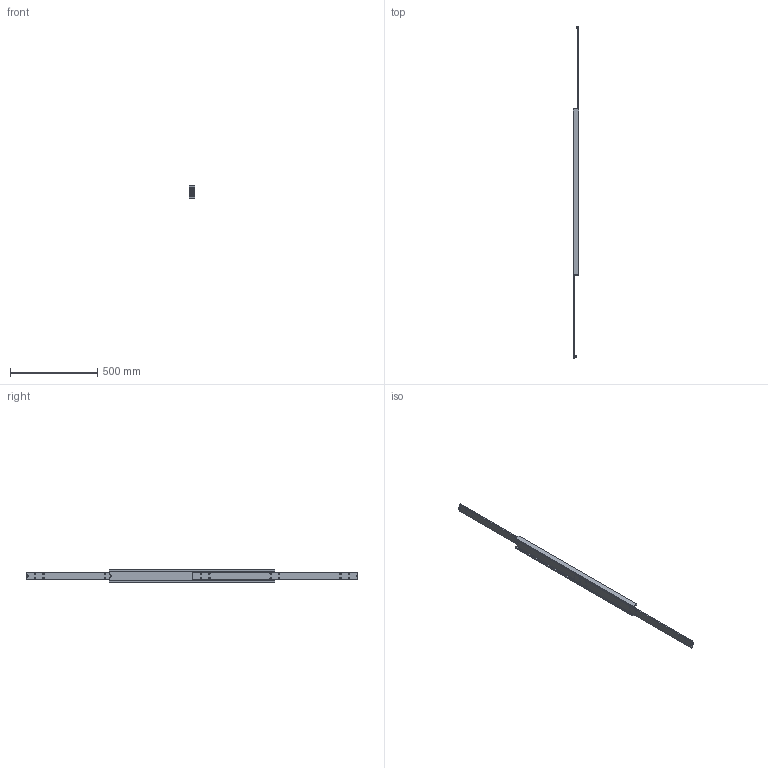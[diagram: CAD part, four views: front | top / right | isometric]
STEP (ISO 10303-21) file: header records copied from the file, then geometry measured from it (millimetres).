
FILE_DESCRIPTION(/* description */ (''),/* implementation_level */ '2;1');
FILE_NAME(/* name */ 'D:\Zeichnungen Schienen Komplett\MX-DTP70\MX-DTP70.095\MX-DTP70.095_ausgefahren.step',/* time_stamp */ '2022-08-30T09:48:40+02:00',/* author */ ('zmile'),/* organization */ (''),/* preprocessor_version */ 'ST-DEVELOPER v16.13',/* originating_system */ 'AutoCAD Mechanical',/* authorisation */ '');
FILE_SCHEMA (('AUTOMOTIVE_DESIGN { 1 0 10303 214 3 1 1 }'));
Products named in the file (1): Product
Bounding box: 32 x 1900 x 70 mm (x, y, z)
Volume: 1682440.9 mm3; surface area: 600282 mm2
Topology: 67 solids, 67 shells, 338 faces, 952 edges, 632 vertices
Faces by surface type: cylinder 100, plane 86, bspline 86, sphere 60, torus 6
Full cylindrical faces by diameter (mm): 9 x60, 13 x2
Entity records: 192936 total; most frequent: CARTESIAN_POINT 185190, ORIENTED_EDGE 1524, DIRECTION 1262, EDGE_CURVE 762, VERTEX_POINT 630, EDGE_LOOP 582, AXIS2_PLACEMENT_3D 525, FACE_OUTER_BOUND 338
